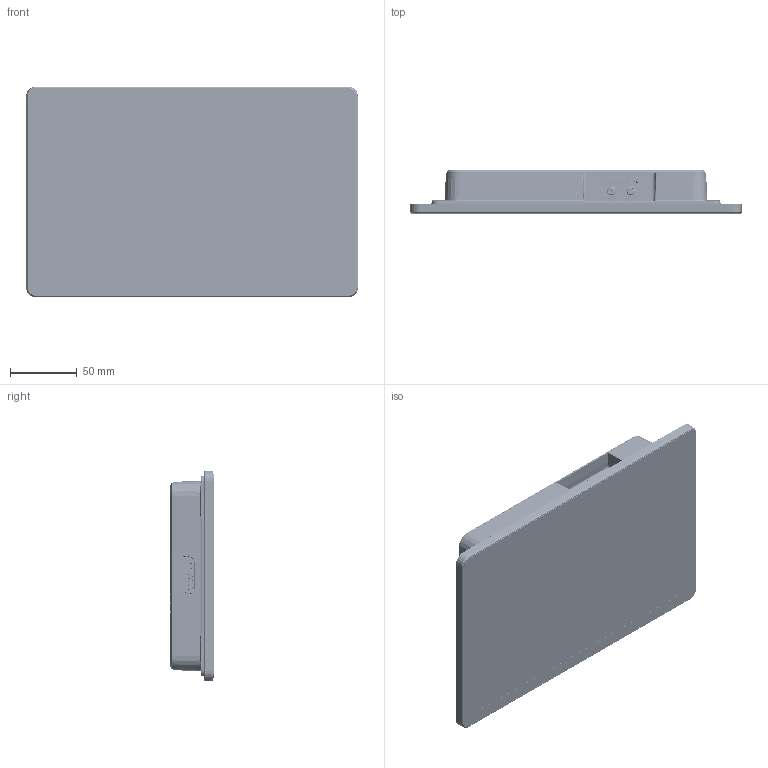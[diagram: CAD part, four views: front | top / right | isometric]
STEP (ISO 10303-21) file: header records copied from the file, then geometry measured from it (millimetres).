
FILE_DESCRIPTION((''),'2;1');
FILE_NAME('F110-3D_ASM','2021-03-31T15:25:15',('weixf_pc'),(''),'CREO PARAMETRIC BY PTC INC, 2016510','CREO PARAMETRIC BY PTC INC, 2016510','');
FILE_SCHEMA(('CONFIG_CONTROL_DESIGN'));
Products named in the file (79): MSTBA2_5-2-G_1_1_1_1_1_1_4_12_3; SUBMODEL-E__MYFOLDERS_FLEX-2383_ASM; SUBMODEL-TBPC_500_TH90_02P_PA_1_ASM; MSTBA2_5-3-G_1_1_1_1_1_1_4_12_3; SUBMODEL-E__MYFOLDERS_FLEX-2405_ASM; SUBMODEL-TBPC_500_TH90_03P_PA_1_ASM; SMA_L1781H960_1_1_1_1_1_1_4_12_; SUBMODEL-E__MYFOLDERS_FLEX-2449_ASM; SUBMODEL-ANT_SMA_L800H1290_04_1_ASM; CORTE-EXTRUS_O21_1_1_1_1_1_1_4_; ESPELHAR6_1_1_1_1_1_1_4_12_33_3; DB9-TH90_MALE_ASM_1_ASM_1_ASM_1_ASM; SUBMODEL-E__MYFOLDERS_FLEX-2227_ASM; SUBMODEL-D-SUB-TH90-9P-MALE_P_1_ASM; USB-AF_TH90_L1360W572H1390_1_1_; SUBMODEL-E__MYFOLDERS_FLEX-1443_ASM; SUBMODEL-USB_AF_TH90_L1400W710H_ASM; NONE-51149_1_1_1_1_1_1_4_12_33_; NONE-51150_1_1_1_1_1_1_4_12_33_; NONE-51151_1_1_1_1_1_1_4_12_33_; RJ45-L157W165H132-90-PLATE_AS_1_ASM; SUBMODEL-E__MYFOLDERS_FLEX-2361_ASM; SUBMODEL-RJ45_LEYCONN_5562188_1_ASM; BOSS-EXTRUDE7_7__1_1_1_1_1_1_4_; BOSS-EXTRUDE7_3__1_1_1_1_1_1_4_; BOSS-EXTRUDE7_8__1_1_1_1_1_1_4_; BOSS-EXTRUDE14_2__1_1_1_1_1_1_4; BOSS-EXTRUDE7_6__1_1_1_1_1_1_4_; BOSS-EXTRUDE14_3__1_1_1_1_1_1_4; BOSS-EXTRUDE14_9__1_1_1_1_1_1_4; BOSS-EXTRUDE14_12__1_1_1_1_1_1_; BOSS-EXTRUDE14_4__1_1_1_1_1_1_4; BOSS-EXTRUDE14_11__1_1_1_1_1_1_; BOSS-EXTRUDE7_9__1_1_1_1_1_1_4_; MIRROR2_1_1_1_1_1_1_4_12_33_3_1; NONE-48900_1_1_1_1_1_1_4_12_33_; BOSS-EXTRUDE14_8__1_1_1_1_1_1_4; BOSS-EXTRUDE7_2__1_1_1_1_1_1_4_; BOSS-EXTRUDE7_5__1_1_1_1_1_1_4_; CHAMFER9_1_1_1_1_1_1_4_12_33_3_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
Assembly tree (92 placements, depth 7):
  F110-3D_ASM
    2_ASM
      PCB-A-0806A_ASM_4_ASM_12_ASM_33_ASM
        SUBMODEL-TBPC_500_TH90_02P_PA_1_ASM
          SUBMODEL-E__MYFOLDERS_FLEX-2383_ASM
            MSTBA2_5-2-G_1_1_1_1_1_1_4_12_3
        SUBMODEL-TBPC_500_TH90_03P_PA_1_ASM
          SUBMODEL-E__MYFOLDERS_FLEX-2405_ASM
            MSTBA2_5-3-G_1_1_1_1_1_1_4_12_3
        SUBMODEL-ANT_SMA_L800H1290_04_1_ASM  x2
          SUBMODEL-E__MYFOLDERS_FLEX-2449_ASM
            SMA_L1781H960_1_1_1_1_1_1_4_12_
        SUBMODEL-D-SUB-TH90-9P-MALE_P_1_ASM
          SUBMODEL-E__MYFOLDERS_FLEX-2227_ASM
            DB9-TH90_MALE_ASM_1_ASM_1_ASM_1_ASM
              CORTE-EXTRUS_O21_1_1_1_1_1_1_4_
              ESPELHAR6_1_1_1_1_1_1_4_12_33_3
        SUBMODEL-USB_AF_TH90_L1400W710H_ASM
          SUBMODEL-E__MYFOLDERS_FLEX-1443_ASM
            USB-AF_TH90_L1360W572H1390_1_1_
        SUBMODEL-RJ45_LEYCONN_5562188_1_ASM
          SUBMODEL-E__MYFOLDERS_FLEX-2361_ASM
            RJ45-L157W165H132-90-PLATE_AS_1_ASM
              NONE-51149_1_1_1_1_1_1_4_12_33_
              NONE-51150_1_1_1_1_1_1_4_12_33_
              NONE-51151_1_1_1_1_1_1_4_12_33_
        SUBMODEL-TYPEC_SM90_L755W894H_1_ASM
          SUBMODEL-E__MYFOLDERS_FLEX-1465_ASM
            TYPEC_SM90_L730W894H321_4HPAD_1_ASM
              BOSS-EXTRUDE7_7__1_1_1_1_1_1_4_
              BOSS-EXTRUDE7_3__1_1_1_1_1_1_4_
              BOSS-EXTRUDE7_8__1_1_1_1_1_1_4_
              BOSS-EXTRUDE14_2__1_1_1_1_1_1_4
              BOSS-EXTRUDE7_6__1_1_1_1_1_1_4_
              BOSS-EXTRUDE14_3__1_1_1_1_1_1_4
              BOSS-EXTRUDE14_9__1_1_1_1_1_1_4
              BOSS-EXTRUDE14_12__1_1_1_1_1_1_
              BOSS-EXTRUDE14_4__1_1_1_1_1_1_4
              BOSS-EXTRUDE14_11__1_1_1_1_1_1_
              BOSS-EXTRUDE7_9__1_1_1_1_1_1_4_
              MIRROR2_1_1_1_1_1_1_4_12_33_3_1
              NONE-48900_1_1_1_1_1_1_4_12_33_
              BOSS-EXTRUDE14_8__1_1_1_1_1_1_4
              BOSS-EXTRUDE7_2__1_1_1_1_1_1_4_
              BOSS-EXTRUDE7_5__1_1_1_1_1_1_4_
              CHAMFER9_1_1_1_1_1_1_4_12_33_3_
              BOSS-EXTRUDE7_1__1_1_1_1_1_1_4_
              CUT-EXTRUDE5_1_1_1_1_1_1_4_12_3
              BOSS-EXTRUDE14_10__1_1_1_1_1_1_
              BOSS-EXTRUDE14_6__1_1_1_1_1_1_4
              BOSS-EXTRUDE7_4__1_1_1_1_1_1_4_
              BOSS-EXTRUDE14_7__1_1_1_1_1_1_4
              BOSS-EXTRUDE14_5__1_1_1_1_1_1_4
      PCB-B-0806A_ASM_4_ASM_12_ASM__1_ASM
        SUBMODEL-HYC27_SIM08_300_PART_1_ASM
          SUBMODEL-E__MYFOLDERS_FLEX-13_6_ASM
            HYC27_SIM08_300_1_1_1_1_1_3_4_2
          SUBMODEL-SIM_SHIELD_PART_SIMP_2_ASM
            SIM_3_4_12_33_3_1_1_3_1
        SUBMODEL-FE_LED_CLH-02AB_PART_2_ASM  x2
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Bounding box: 248.82 x 32.45 x 157.82 mm (x, y, z)
Volume: 511544.5 mm3; surface area: 357033 mm2
Topology: 75 solids, 78 shells, 10671 faces, 30187 edges, 19901 vertices
Faces by surface type: plane 5943, cylinder 2847, bspline 838, cone 397, torus 333, extrusion 195, sphere 118
Entity records: 728602 total; most frequent: CARTESIAN_POINT 520920, ORIENTED_EDGE 44878, DIRECTION 40358, EDGE_CURVE 22439, VECTOR 15568, LINE 15389, VERTEX_POINT 14710, AXIS2_PLACEMENT_3D 12395
